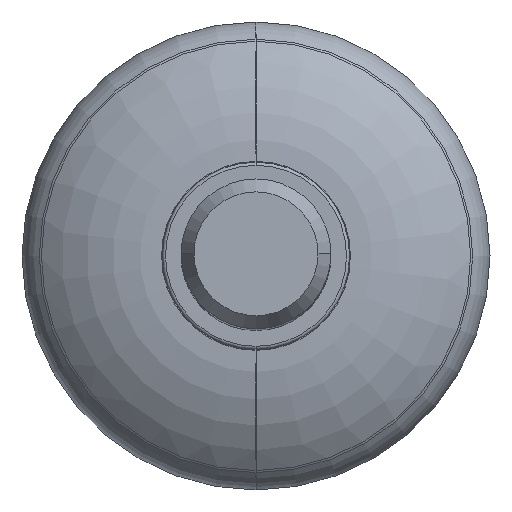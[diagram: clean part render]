
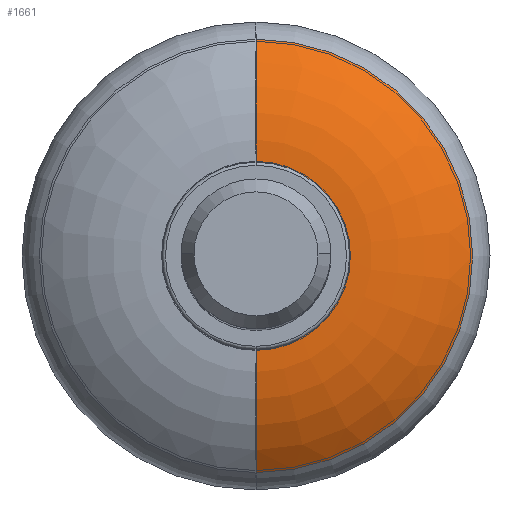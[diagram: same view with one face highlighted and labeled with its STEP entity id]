
A CAD part, top view. The second image highlights one B-rep face of the part: STEP entity #1661.
In plain terms, the highlighted toroidal (fillet/blend) face has major radius 15.132 mm and minor radius 30 mm.
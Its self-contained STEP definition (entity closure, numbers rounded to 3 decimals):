
#201 = DIRECTION ( 'NONE',  ( 0., 0., -1. ) ) ;
#216 = VERTEX_POINT ( 'NONE', #4145 ) ;
#417 = DIRECTION ( 'NONE',  ( 0., 1., 0. ) ) ;
#448 = EDGE_LOOP ( 'NONE', ( #2261, #1645, #4459, #2411 ) ) ;
#513 = DIRECTION ( 'NONE',  ( -1., 0., 0. ) ) ;
#535 = CIRCLE ( 'NONE', #1185, 34.719 ) ;
#565 = DIRECTION ( 'NONE',  ( 0., 0., -1. ) ) ;
#831 = VERTEX_POINT ( 'NONE', #2506 ) ;
#873 = CARTESIAN_POINT ( 'NONE',  ( 0., 0., -32. ) ) ;
#928 = CARTESIAN_POINT ( 'NONE',  ( 0., 0., -9.277 ) ) ;
#991 = EDGE_CURVE ( 'NONE', #4122, #216, #535, .T. ) ;
#1185 = AXIS2_PLACEMENT_3D ( 'NONE', #928, #201, #3753 ) ;
#1361 = CARTESIAN_POINT ( 'NONE',  ( 0., 15.132, -32. ) ) ;
#1645 = ORIENTED_EDGE ( 'NONE', *, *, #4616, .T. ) ;
#1658 = AXIS2_PLACEMENT_3D ( 'NONE', #1361, #2951, #2183 ) ;
#1661 = ADVANCED_FACE ( 'NONE', ( #3596 ), #4340, .T. ) ;
#1682 = VERTEX_POINT ( 'NONE', #2764 ) ;
#2152 = AXIS2_PLACEMENT_3D ( 'NONE', #873, #3574, #417 ) ;
#2183 = DIRECTION ( 'NONE',  ( 0., 1., 0. ) ) ;
#2261 = ORIENTED_EDGE ( 'NONE', *, *, #3905, .F. ) ;
#2314 = EDGE_CURVE ( 'NONE', #216, #1682, #2460, .T. ) ;
#2411 = ORIENTED_EDGE ( 'NONE', *, *, #991, .F. ) ;
#2460 = CIRCLE ( 'NONE', #4102, 30. ) ;
#2506 = CARTESIAN_POINT ( 'NONE',  ( 0., 14.159, -2.016 ) ) ;
#2752 = DIRECTION ( 'NONE',  ( 0., -1., 0. ) ) ;
#2764 = CARTESIAN_POINT ( 'NONE',  ( 0., -14.159, -2.016 ) ) ;
#2919 = CIRCLE ( 'NONE', #3664, 14.159 ) ;
#2951 = DIRECTION ( 'NONE',  ( -1., 0., 0. ) ) ;
#3341 = DIRECTION ( 'NONE',  ( 0., 1., 0. ) ) ;
#3500 = CARTESIAN_POINT ( 'NONE',  ( 0., 34.719, -9.277 ) ) ;
#3574 = DIRECTION ( 'NONE',  ( 0., 0., -1. ) ) ;
#3596 = FACE_OUTER_BOUND ( 'NONE', #448, .T. ) ;
#3664 = AXIS2_PLACEMENT_3D ( 'NONE', #4850, #565, #3341 ) ;
#3753 = DIRECTION ( 'NONE',  ( 0., 1., 0. ) ) ;
#3905 = EDGE_CURVE ( 'NONE', #831, #4122, #4206, .T. ) ;
#4014 = CARTESIAN_POINT ( 'NONE',  ( 0., -15.132, -32. ) ) ;
#4102 = AXIS2_PLACEMENT_3D ( 'NONE', #4014, #513, #2752 ) ;
#4122 = VERTEX_POINT ( 'NONE', #3500 ) ;
#4145 = CARTESIAN_POINT ( 'NONE',  ( 0., -34.719, -9.277 ) ) ;
#4206 = CIRCLE ( 'NONE', #1658, 30. ) ;
#4340 = TOROIDAL_SURFACE ( 'NONE', #2152, 15.132, 30. ) ;
#4459 = ORIENTED_EDGE ( 'NONE', *, *, #2314, .F. ) ;
#4616 = EDGE_CURVE ( 'NONE', #831, #1682, #2919, .T. ) ;
#4850 = CARTESIAN_POINT ( 'NONE',  ( 0., 0., -2.016 ) ) ;
